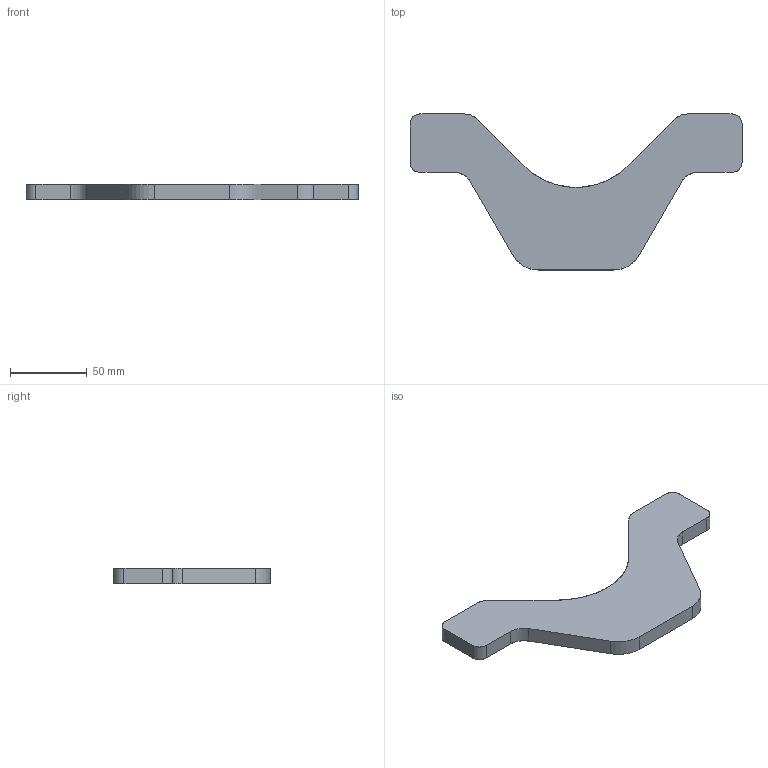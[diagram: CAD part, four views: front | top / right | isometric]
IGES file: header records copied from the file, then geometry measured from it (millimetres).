
Start section: SolidWorks IGES file using analytic representation for surfaces
Global section: file name: E:\Nouveau dossier\tarek\mécaniquee\L3GMCFM\TP0\EX4.IGS; native system: SolidWorks 2013; preprocessor: SolidWorks 2013; author: LENOVO; date: 180916.194833; units: millimetre
Bounding box: 216 x 101.5 x 10 mm (x, y, z)
Surface area: 27787 mm2 (no closed solid volume)
Topology: 0 solids, 0 shells, 24 faces, 286 edges, 286 vertices
Faces by surface type: bspline 13, revolution 11
